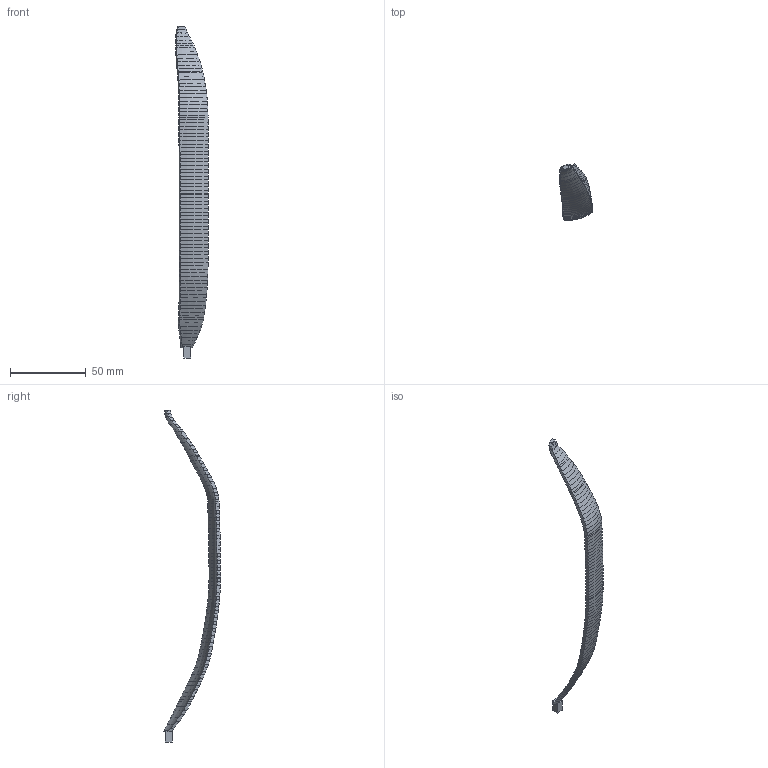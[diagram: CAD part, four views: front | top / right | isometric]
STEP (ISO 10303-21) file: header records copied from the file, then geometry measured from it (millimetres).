
FILE_DESCRIPTION(('Open CASCADE Model'),'2;1');
FILE_NAME('Open CASCADE Shape Model','2026-11-18T16:59:33',('Author'),( 'Open CASCADE'),'Open CASCADE STEP processor 7.9','Open CASCADE 7.9' ,'Unknown');
FILE_SCHEMA(('AUTOMOTIVE_DESIGN { 1 0 10303 214 1 1 1 1 }'));
Length unit declared in the file: millimetre
Products named in the file (1): Open CASCADE STEP translator 7.9 2
Bounding box: 21.66 x 37.54 x 218.6 mm (x, y, z)
Volume: 8637.6 mm3; surface area: 9166.2 mm2
Topology: 1 solids, 1 shells, 406 faces, 820 edges, 416 vertices
Faces by surface type: bspline 394, plane 12
Entity records: 32787 total; most frequent: CARTESIAN_POINT 18330, DIRECTION 1698, LINE 1672, VECTOR 1672, ORIENTED_EDGE 1640, PCURVE 1640, DEFINITIONAL_REPRESENTATION 1640, EDGE_CURVE 820
